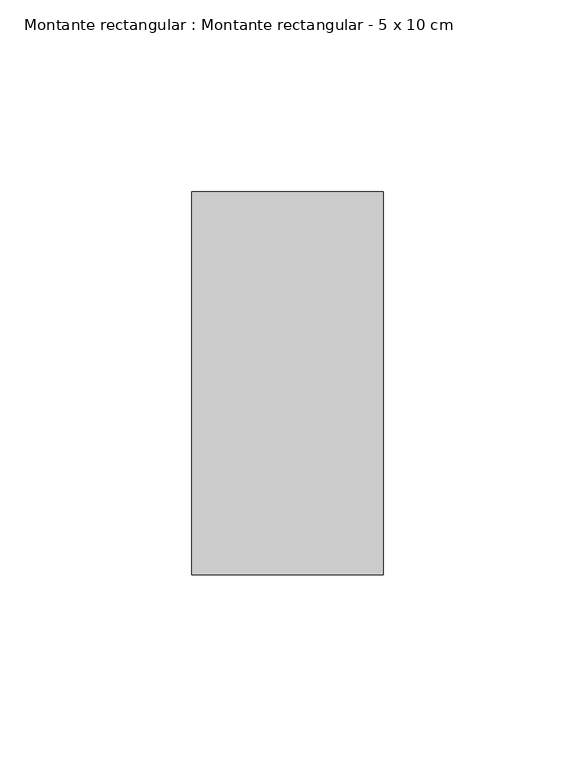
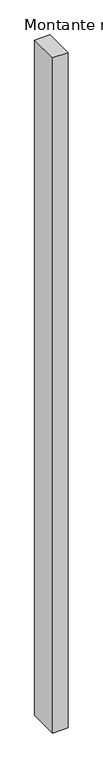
"""IFC4 building model written with IfcOpenShell, lengths in millimetres: member geometry, Montante rectangular : Montante rectangular - 5 x 10 cm."""

import ifcopenshell
import ifcopenshell.guid

model = None  # the IFC model being written
_history = None  # IfcOwnerHistory: only IFC2X3 demands one
_inside = {}  # id of a spatial element -> (the spatial element, [elements in it])
_under = {}  # id of a project, library or spatial element -> (it, [spatial elements below it])
_declared = {}  # id of a project -> (the project, [libraries it declares])
_typed = {}  # id of a type object -> (the type object, [elements of that type])
_made_of = {}  # id of a material, layer set ... -> (it, [elements and type objects made of it])


def new_model(schema):
    """Start an empty IFC model of exactly this schema.

    Asked for "IFC4X3", IfcOpenShell would pick the latest addendum, in which some entities
    have other attributes; the version numbers below select the first issue.
    IFC2X3 requires an IfcOwnerHistory on every rooted entity: one is made here for all.
    """
    global model, _history
    if schema == "IFC4X3":
        model = ifcopenshell.file(schema_version=(4, 3, 0, 0))
    else:
        model = ifcopenshell.file(schema=schema)
    _inside.clear()
    _under.clear()
    _declared.clear()
    _typed.clear()
    _made_of.clear()
    _history = None
    if model.schema == "IFC2X3":
        org = make("IfcOrganization", Name="unknown")
        user = make(
            "IfcPersonAndOrganization",
            ThePerson=make("IfcPerson", FamilyName="unknown"),
            TheOrganization=org,
        )
        app = make(
            "IfcApplication",
            ApplicationDeveloper=org,
            Version="unknown",
            ApplicationFullName="unknown",
            ApplicationIdentifier="unknown",
        )
        _history = make(
            "IfcOwnerHistory",
            OwningUser=user,
            OwningApplication=app,
            ChangeAction="ADDED",
            CreationDate=0,
        )
    return model


def make(cls, **values):
    """One entity of the class cls with the attributes given. An attribute that is None is left unset."""
    return model.create_entity(
        cls, **{name: value for name, value in values.items() if value is not None}
    )


def rooted(cls, **values):
    """An entity with a GlobalId (a new one), such as an element, a storey or a relation."""
    return make(cls, GlobalId=ifcopenshell.guid.new(), OwnerHistory=_history, **values)


def si_unit(unit_type, name, prefix=None):
    """IfcSIUnit, for example si_unit("LENGTHUNIT", "METRE", prefix="MILLI")."""
    return make("IfcSIUnit", UnitType=unit_type, Prefix=prefix, Name=name)


def assignment(units):
    """IfcUnitAssignment: the units of a project."""
    return None if units is None else make("IfcUnitAssignment", Units=units)


def point(xyz):
    """IfcCartesianPoint."""
    return None if xyz is None else make("IfcCartesianPoint", Coordinates=xyz)


def direction(xyz):
    """IfcDirection."""
    return None if xyz is None else make("IfcDirection", DirectionRatios=xyz)


def frame(location, z_axis=None, x_axis=None):
    """IfcAxis2Placement3D, a coordinate frame: its origin and axes. An axis left out is left unset."""
    return make(
        "IfcAxis2Placement3D",
        Location=point(location),
        Axis=direction(z_axis),
        RefDirection=direction(x_axis),
    )


def origin():
    """The frame at (0, 0, 0) with its axes left unset."""
    return frame((0.0, 0.0, 0.0))


def place(relative_to, where):
    """IfcLocalPlacement: puts the frame where relative to a parent placement (None: the world)."""
    return make(
        "IfcLocalPlacement", PlacementRelTo=relative_to, RelativePlacement=where
    )


def context(
    kind, dimensions, precision=None, world=None, true_north=None, identifier=None
):
    """IfcGeometricRepresentationContext, for example the 3D "Model" context."""
    return make(
        "IfcGeometricRepresentationContext",
        ContextIdentifier=identifier,
        ContextType=kind,
        CoordinateSpaceDimension=dimensions,
        Precision=precision,
        WorldCoordinateSystem=world,
        TrueNorth=true_north,
    )


def project(units=None, contexts=None):
    """IfcProject with its units and contexts."""
    return rooted(
        "IfcProject",
        Name="project",
        RepresentationContexts=contexts,
        UnitsInContext=assignment(units),
    )


def spatial(cls, under=None, at=None, **own):
    """A site, building, storey or space (cls), placed at a placement, below another one or the project."""
    s = rooted(cls, ObjectPlacement=at, **own)
    if under is not None:
        _under.setdefault(under.id(), (under, []))[1].append(s)
    return s


def polyline(points):
    """IfcPolyline through the points."""
    return make("IfcPolyline", Points=[point(p) for p in points])


def outline(outer, holes=None, kind="AREA"):
    """IfcArbitraryClosedProfileDef: a profile drawn as a closed curve; with holes, ...WithVoids."""
    if holes is None:
        return make("IfcArbitraryClosedProfileDef", ProfileType=kind, OuterCurve=outer)
    return make(
        "IfcArbitraryProfileDefWithVoids",
        ProfileType=kind,
        OuterCurve=outer,
        InnerCurves=holes,
    )


def extrude(swept, where, along, depth):
    """IfcExtrudedAreaSolid: the profile swept, set in the frame where, extruded along a direction by depth."""
    return make(
        "IfcExtrudedAreaSolid",
        SweptArea=swept,
        Position=where,
        ExtrudedDirection=direction(along),
        Depth=depth,
    )


def shape(context_of_items, identifier, shape_type, items):
    """IfcShapeRepresentation: the items that make up one representation, for example the "Body"."""
    return make(
        "IfcShapeRepresentation",
        ContextOfItems=context_of_items,
        RepresentationIdentifier=identifier,
        RepresentationType=shape_type,
        Items=items,
    )


def source(mapping_origin, context_of_items, identifier, shape_type, items):
    """IfcRepresentationMap: a shape defined once, which mapped items show again and again."""
    return make(
        "IfcRepresentationMap",
        MappingOrigin=mapping_origin,
        MappedRepresentation=shape(context_of_items, identifier, shape_type, items),
    )


def transform(
    local_origin,
    x_axis=None,
    y_axis=None,
    z_axis=None,
    scale=None,
    scale2=None,
    scale3=None,
    uniform=True,
):
    """IfcCartesianTransformationOperator3D, or its non-uniform kind. x_axis, y_axis, z_axis: its Axis1, 2, 3."""
    if uniform:
        return make(
            "IfcCartesianTransformationOperator3D",
            Axis1=direction(x_axis),
            Axis2=direction(y_axis),
            LocalOrigin=point(local_origin),
            Scale=scale,
            Axis3=direction(z_axis),
        )
    return make(
        "IfcCartesianTransformationOperator3DnonUniform",
        Axis1=direction(x_axis),
        Axis2=direction(y_axis),
        LocalOrigin=point(local_origin),
        Scale=scale,
        Axis3=direction(z_axis),
        Scale2=scale2,
        Scale3=scale3,
    )


def mapped(mapping_source, mapping_target):
    """IfcMappedItem: shows the shape of a source again, moved by a transform."""
    return make(
        "IfcMappedItem", MappingSource=mapping_source, MappingTarget=mapping_target
    )


def made_of(thing, what):
    """Note that an element or type object is made of a material, layer set ...; save() writes the relation."""
    if what is not None:
        _made_of.setdefault(what.id(), (what, []))[1].append(thing)
    return thing


def element(
    cls,
    number,
    at=None,
    inside=None,
    cuts=None,
    type_object=None,
    material=None,
    context=None,
    identifier="Body",
    shape_type=None,
    held_by="IfcProductDefinitionShape",
    body=None,
    shapes=None,
    **own,
):
    """One element of the class cls, such as IfcWall. Its Tag is "e" and its number.

    at: its placement. inside: the storey or other place that contains it. cuts: it is an
    opening in that element (IfcRelVoidsElement). A single representation is given by context,
    identifier, shape_type and body (its items); several are given by shapes. held_by: the class
    of the entity that holds the representations. save() writes the other relations.
    """
    e = rooted(cls, Tag="e%d" % number, ObjectPlacement=at, **own)
    if body is not None:
        shapes = [shape(context, identifier, shape_type, body)]
    if shapes is not None:
        e.Representation = make(held_by, Representations=shapes)
    if inside is not None:
        _inside.setdefault(inside.id(), (inside, []))[1].append(e)
    if cuts is not None:
        rooted(
            "IfcRelVoidsElement", RelatingBuildingElement=cuts, RelatedOpeningElement=e
        )
    if type_object is not None:
        _typed.setdefault(type_object.id(), (type_object, []))[1].append(e)
    return made_of(e, material)


def aggregate(whole, parts):
    """IfcRelAggregates: a whole, such as a stair, and the parts it consists of."""
    return rooted("IfcRelAggregates", RelatingObject=whole, RelatedObjects=parts)


def save(model, path):
    """Write the relations noted so far, then the file.

    IfcRelAggregates (storeys below a building ...), IfcRelContainedInSpatialStructure (elements
    in a storey), IfcRelDefinesByType, IfcRelAssociatesMaterial and IfcRelDeclares: one each for
    every whole, place, type object, material and project.
    """
    for whole, parts in _under.values():
        aggregate(whole, parts)
    for where, things in _inside.values():
        rooted(
            "IfcRelContainedInSpatialStructure",
            RelatedElements=things,
            RelatingStructure=where,
        )
    for kind, things in _typed.values():
        rooted("IfcRelDefinesByType", RelatedObjects=things, RelatingType=kind)
    for what, things in _made_of.values():
        rooted("IfcRelAssociatesMaterial", RelatedObjects=things, RelatingMaterial=what)
    for by, libraries in _declared.values():
        rooted("IfcRelDeclares", RelatingContext=by, RelatedDefinitions=libraries)
    model.write(path)


def montante_rectangular_montante_rectangular_5_x_10_cm_b7725e21(model_context):
    return source(origin(), model_context, "Body", "SweptSolid", [
        extrude(outline(polyline([(0.0, 50.0), (0.0, -50.0), (-50.0, -50.0), (-50.0, 50.0), (0.0, 50.0)])), frame((0.0, 0.0, -2300.0), z_axis=(0.0, 0.0, 1.0), x_axis=(1.0, 0.0, 0.0)), (0.0, 0.0, 1.0), 2300.0),
    ])


if __name__ == "__main__":
    model = new_model("IFC4")
    model_context = context("Model", 3, world=origin())
    ifc_project = project(units=[si_unit("LENGTHUNIT", "METRE", prefix="MILLI")], contexts=[model_context])
    site = spatial("IfcSite", under=ifc_project)
    building = spatial("IfcBuilding", under=site)
    placement = place(None, origin())
    montante_rectangular_montante_rectangular_5_x_10_cm_shape = montante_rectangular_montante_rectangular_5_x_10_cm_b7725e21(model_context)
    element("IfcMember", 1, ObjectType="Montante rectangular : Montante rectangular - 5 x 10 cm", at=placement, inside=building, context=model_context, shape_type="MappedRepresentation", body=[
        mapped(montante_rectangular_montante_rectangular_5_x_10_cm_shape, transform((0.0, 0.0, 0.0), x_axis=(1.0, 0.0, 0.0), y_axis=(0.0, 1.0, 0.0), z_axis=(0.0, 0.0, 1.0))),
    ])
    save(model, "model.ifc")
